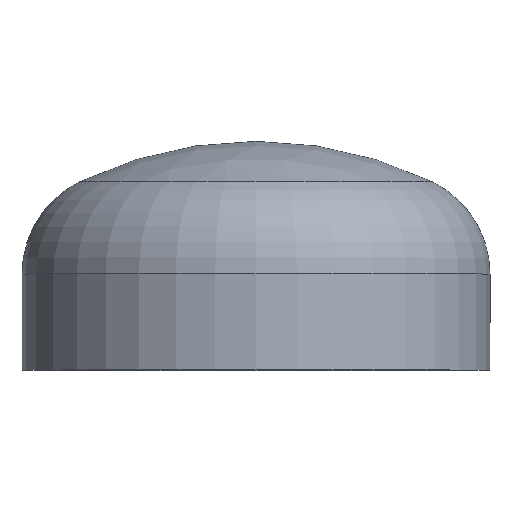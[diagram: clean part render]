
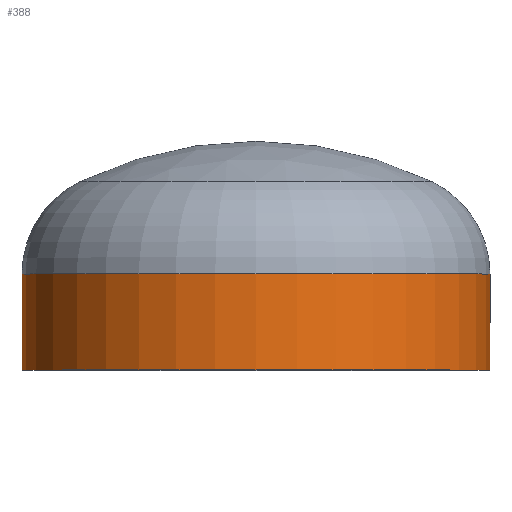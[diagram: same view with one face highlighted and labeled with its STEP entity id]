
A CAD part, top view. The second image highlights one B-rep face of the part: STEP entity #388.
In plain terms, the highlighted cylindrical face has radius 109.55 mm (diameter 219.1 mm), a partial arc.
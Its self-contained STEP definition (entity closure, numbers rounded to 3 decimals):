
#3 = VERTEX_POINT ( 'NONE', #230 ) ;
#8 = VERTEX_POINT ( 'NONE', #248 ) ;
#20 = ORIENTED_EDGE ( 'NONE', *, *, #162, .T. ) ;
#24 = DIRECTION ( 'NONE',  ( 0., -1., 0. ) ) ;
#25 = CARTESIAN_POINT ( 'NONE',  ( 0., 0., 0. ) ) ;
#39 = VERTEX_POINT ( 'NONE', #213 ) ;
#65 = CARTESIAN_POINT ( 'NONE',  ( 0., 0., 0. ) ) ;
#73 = VECTOR ( 'NONE', #173, 1000. ) ;
#81 = ORIENTED_EDGE ( 'NONE', *, *, #331, .F. ) ;
#82 = AXIS2_PLACEMENT_3D ( 'NONE', #25, #24, #127 ) ;
#84 = EDGE_LOOP ( 'NONE', ( #384, #20, #81, #204 ) ) ;
#100 = AXIS2_PLACEMENT_3D ( 'NONE', #65, #237, #301 ) ;
#107 = AXIS2_PLACEMENT_3D ( 'NONE', #371, #281, #277 ) ;
#127 = DIRECTION ( 'NONE',  ( 1., 0., 0. ) ) ;
#131 = EDGE_CURVE ( 'NONE', #3, #39, #265, .T. ) ;
#139 = EDGE_CURVE ( 'NONE', #3, #383, #408, .T. ) ;
#162 = EDGE_CURVE ( 'NONE', #383, #8, #250, .T. ) ;
#173 = DIRECTION ( 'NONE',  ( 0., -1., 0. ) ) ;
#196 = VECTOR ( 'NONE', #312, 1000. ) ;
#204 = ORIENTED_EDGE ( 'NONE', *, *, #131, .F. ) ;
#213 = CARTESIAN_POINT ( 'NONE',  ( 109.55, 0., 0. ) ) ;
#230 = CARTESIAN_POINT ( 'NONE',  ( 109.55, 45., 0. ) ) ;
#237 = DIRECTION ( 'NONE',  ( 0., -1., 0. ) ) ;
#248 = CARTESIAN_POINT ( 'NONE',  ( -109.55, 0., 0. ) ) ;
#250 = LINE ( 'NONE', #269, #73 ) ;
#265 = LINE ( 'NONE', #305, #196 ) ;
#269 = CARTESIAN_POINT ( 'NONE',  ( -109.55, 0., 0. ) ) ;
#277 = DIRECTION ( 'NONE',  ( 1., 0., 0. ) ) ;
#281 = DIRECTION ( 'NONE',  ( 0., -1., 0. ) ) ;
#301 = DIRECTION ( 'NONE',  ( 1., 0., 0. ) ) ;
#305 = CARTESIAN_POINT ( 'NONE',  ( 109.55, 0., 0. ) ) ;
#312 = DIRECTION ( 'NONE',  ( 0., -1., 0. ) ) ;
#331 = EDGE_CURVE ( 'NONE', #39, #8, #387, .T. ) ;
#332 = CYLINDRICAL_SURFACE ( 'NONE', #100, 109.55 ) ;
#342 = FACE_OUTER_BOUND ( 'NONE', #84, .T. ) ;
#371 = CARTESIAN_POINT ( 'NONE',  ( 0., 45., 0. ) ) ;
#383 = VERTEX_POINT ( 'NONE', #395 ) ;
#384 = ORIENTED_EDGE ( 'NONE', *, *, #139, .T. ) ;
#387 = CIRCLE ( 'NONE', #82, 109.55 ) ;
#388 = ADVANCED_FACE ( 'NONE', ( #342 ), #332, .T. ) ;
#395 = CARTESIAN_POINT ( 'NONE',  ( -109.55, 45., 0. ) ) ;
#408 = CIRCLE ( 'NONE', #107, 109.55 ) ;
